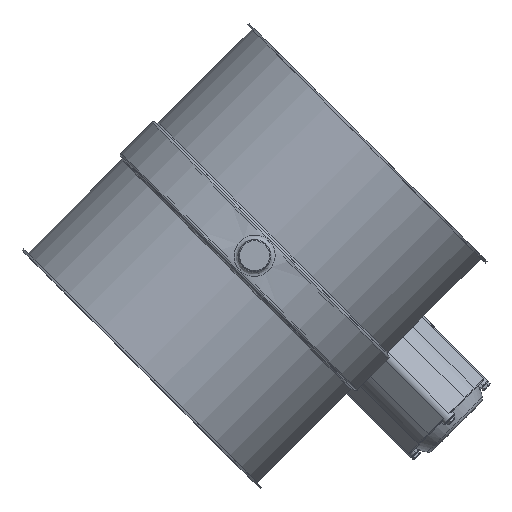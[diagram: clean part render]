
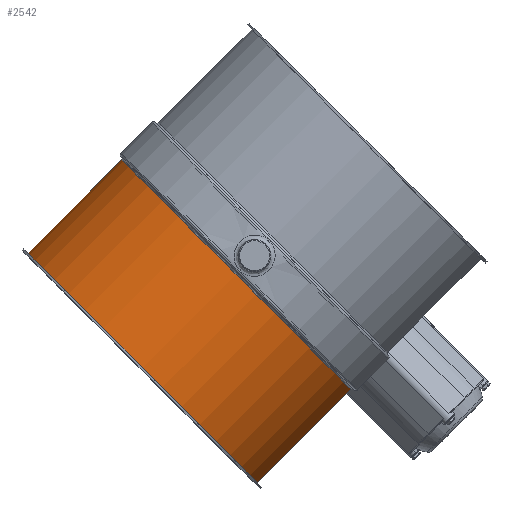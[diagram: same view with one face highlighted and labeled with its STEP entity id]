
A CAD part, top view. The second image highlights one B-rep face of the part: STEP entity #2542.
In plain terms, the highlighted cylindrical face has radius 151.5 mm (diameter 303 mm), a full revolution.
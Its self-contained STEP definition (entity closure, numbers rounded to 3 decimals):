
#2255=CARTESIAN_POINT('',(0.0,2.041,0.));
#2256=VERTEX_POINT('',#2255);
#2257=CARTESIAN_POINT('',(-151.5,2.041,0.0));
#2258=DIRECTION('',(0.0,1.0,0.0));
#2259=DIRECTION('',(1.0,0.0,0.0));
#2260=AXIS2_PLACEMENT_3D('',#2257,#2258,#2259);
#2261=CIRCLE('',#2260,151.5);
#2262=EDGE_CURVE('',#2256,#2256,#2261,.T.);
#2516=CARTESIAN_POINT('',(0.,125.541,0.0));
#2517=VERTEX_POINT('',#2516);
#2518=CARTESIAN_POINT('',(-151.5,125.541,0.0));
#2519=DIRECTION('',(0.0,-1.0,0.0));
#2520=DIRECTION('',(1.0,0.0,0.0));
#2521=AXIS2_PLACEMENT_3D('',#2518,#2519,#2520);
#2522=CIRCLE('',#2521,151.5);
#2523=EDGE_CURVE('',#2517,#2517,#2522,.T.);
#2531=CARTESIAN_POINT('',(-151.5,62.791,0.0));
#2532=DIRECTION('',(0.0,-1.0,0.0));
#2533=DIRECTION('',(1.0,0.0,0.0));
#2534=AXIS2_PLACEMENT_3D('',#2531,#2532,#2533);
#2535=CYLINDRICAL_SURFACE('',#2534,151.5);
#2536=ORIENTED_EDGE('',*,*,#2262,.T.);
#2537=EDGE_LOOP('',(#2536));
#2538=FACE_OUTER_BOUND('',#2537,.T.);
#2539=ORIENTED_EDGE('',*,*,#2523,.T.);
#2540=EDGE_LOOP('',(#2539));
#2541=FACE_BOUND('',#2540,.T.);
#2542=ADVANCED_FACE('',(#2538,#2541),#2535,.T.);
